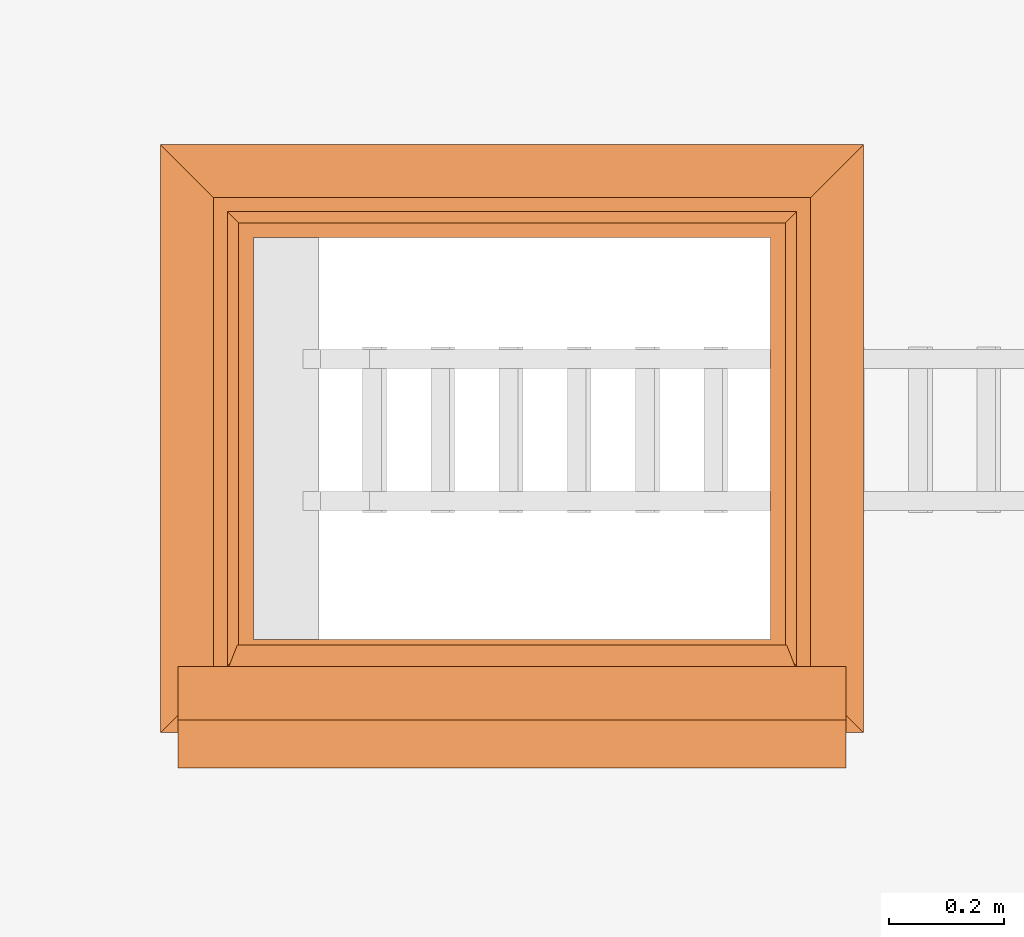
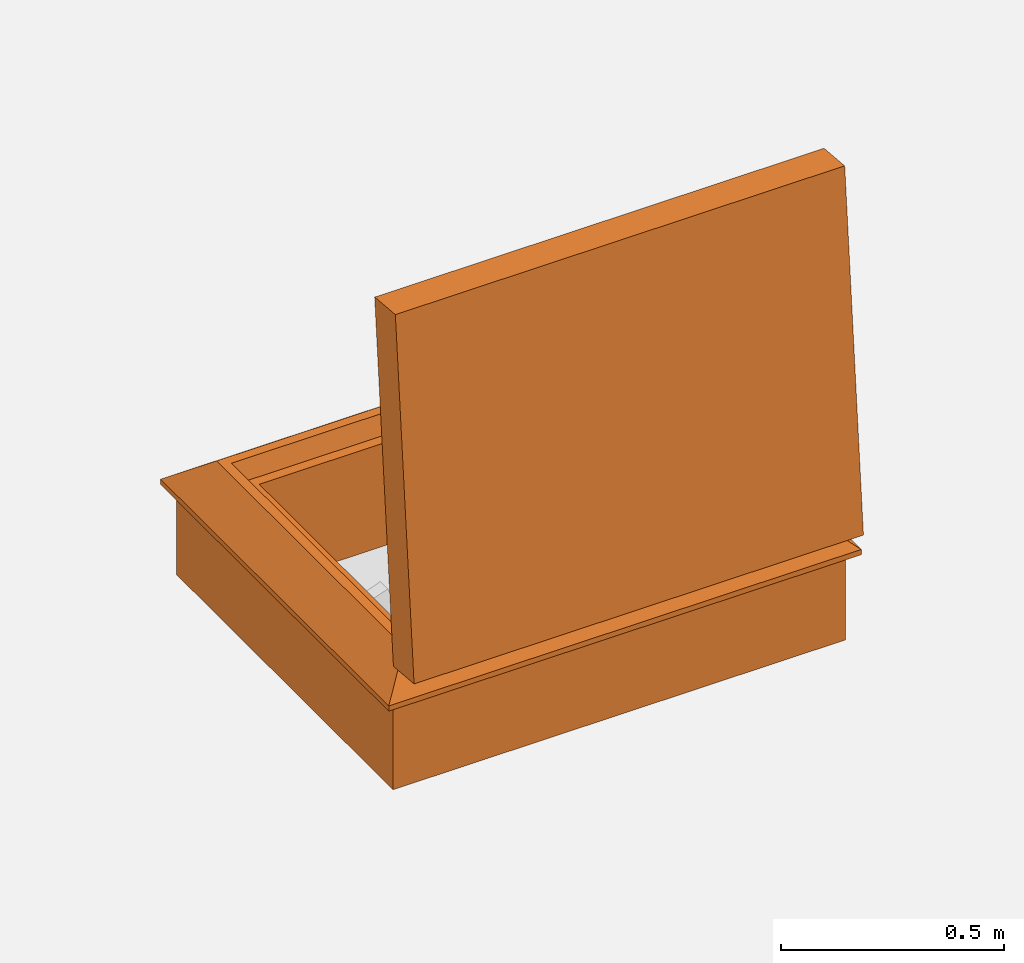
# One storey, part 28 of 28: 1 proxy.
"""IFC2X3 building model written with IfcOpenShell, lengths in millimetres."""

import ifcopenshell
import ifcopenshell.guid

model = None  # the IFC model being written
_history = None  # IfcOwnerHistory: only IFC2X3 demands one
_inside = {}  # id of a spatial element -> (the spatial element, [elements in it])
_under = {}  # id of a project, library or spatial element -> (it, [spatial elements below it])
_declared = {}  # id of a project -> (the project, [libraries it declares])
_typed = {}  # id of a type object -> (the type object, [elements of that type])
_made_of = {}  # id of a material, layer set ... -> (it, [elements and type objects made of it])


def new_model(schema):
    """Start an empty IFC model of exactly this schema.

    Asked for "IFC4X3", IfcOpenShell would pick the latest addendum, in which some entities
    have other attributes; the version numbers below select the first issue.
    IFC2X3 requires an IfcOwnerHistory on every rooted entity: one is made here for all.
    """
    global model, _history
    if schema == "IFC4X3":
        model = ifcopenshell.file(schema_version=(4, 3, 0, 0))
    else:
        model = ifcopenshell.file(schema=schema)
    _inside.clear()
    _under.clear()
    _declared.clear()
    _typed.clear()
    _made_of.clear()
    _history = None
    if model.schema == "IFC2X3":
        org = make("IfcOrganization", Name="unknown")
        user = make(
            "IfcPersonAndOrganization",
            ThePerson=make("IfcPerson", FamilyName="unknown"),
            TheOrganization=org,
        )
        app = make(
            "IfcApplication",
            ApplicationDeveloper=org,
            Version="unknown",
            ApplicationFullName="unknown",
            ApplicationIdentifier="unknown",
        )
        _history = make(
            "IfcOwnerHistory",
            OwningUser=user,
            OwningApplication=app,
            ChangeAction="ADDED",
            CreationDate=0,
        )
    return model


def make(cls, **values):
    """One entity of the class cls with the attributes given. An attribute that is None is left unset."""
    return model.create_entity(
        cls, **{name: value for name, value in values.items() if value is not None}
    )


def entity(cls, *values):
    """Any entity or typed value of the class cls, its attributes in the order of the schema. None: left unset."""
    e = model.create_entity(cls)
    for i, value in enumerate(values):
        if value is not None:
            e[i] = value
    return e


def rooted(cls, **values):
    """An entity with a GlobalId (a new one), such as an element, a storey or a relation."""
    return make(cls, GlobalId=ifcopenshell.guid.new(), OwnerHistory=_history, **values)


def si_unit(unit_type, name, prefix=None):
    """IfcSIUnit, for example si_unit("LENGTHUNIT", "METRE", prefix="MILLI")."""
    return make("IfcSIUnit", UnitType=unit_type, Prefix=prefix, Name=name)


def converted_unit(unit_type, name, factor, base, dimensions=None, offset=None):
    """IfcConversionBasedUnit, such as the inch: factor (a typed value) times the base unit."""
    return make(
        "IfcConversionBasedUnit"
        if offset is None
        else "IfcConversionBasedUnitWithOffset",
        ConversionOffset=offset,
        Dimensions=None
        if dimensions is None
        else entity("IfcDimensionalExponents", *dimensions),
        UnitType=unit_type,
        Name=name,
        ConversionFactor=make(
            "IfcMeasureWithUnit", ValueComponent=factor, UnitComponent=base
        ),
    )


def derived_unit(unit_type, elements):
    """IfcDerivedUnit: a product of units, each with its exponent."""
    return make(
        "IfcDerivedUnit",
        Elements=[
            make("IfcDerivedUnitElement", Unit=unit, Exponent=power)
            for unit, power in elements
        ],
        UnitType=unit_type,
    )


def assignment(units):
    """IfcUnitAssignment: the units of a project."""
    return None if units is None else make("IfcUnitAssignment", Units=units)


def point(xyz):
    """IfcCartesianPoint."""
    return None if xyz is None else make("IfcCartesianPoint", Coordinates=xyz)


def direction(xyz):
    """IfcDirection."""
    return None if xyz is None else make("IfcDirection", DirectionRatios=xyz)


def frame(location, z_axis=None, x_axis=None):
    """IfcAxis2Placement3D, a coordinate frame: its origin and axes. An axis left out is left unset."""
    return make(
        "IfcAxis2Placement3D",
        Location=point(location),
        Axis=direction(z_axis),
        RefDirection=direction(x_axis),
    )


def origin():
    """The frame at (0, 0, 0) with its axes left unset."""
    return frame((0.0, 0.0, 0.0))


def place(relative_to, where):
    """IfcLocalPlacement: puts the frame where relative to a parent placement (None: the world)."""
    return make(
        "IfcLocalPlacement", PlacementRelTo=relative_to, RelativePlacement=where
    )


def context(
    kind, dimensions, precision=None, world=None, true_north=None, identifier=None
):
    """IfcGeometricRepresentationContext, for example the 3D "Model" context."""
    return make(
        "IfcGeometricRepresentationContext",
        ContextIdentifier=identifier,
        ContextType=kind,
        CoordinateSpaceDimension=dimensions,
        Precision=precision,
        WorldCoordinateSystem=world,
        TrueNorth=true_north,
    )


def subcontext(parent, identifier, kind, view, scale=None):
    """IfcGeometricRepresentationSubContext, for example "Body" below "Model"."""
    return make(
        "IfcGeometricRepresentationSubContext",
        ContextIdentifier=identifier,
        ContextType=kind,
        ParentContext=parent,
        TargetScale=scale,
        TargetView=view,
    )


def project(units=None, contexts=None):
    """IfcProject with its units and contexts."""
    return rooted(
        "IfcProject",
        Name="project",
        RepresentationContexts=contexts,
        UnitsInContext=assignment(units),
    )


def spatial(cls, under=None, at=None, **own):
    """A site, building, storey or space (cls), placed at a placement, below another one or the project."""
    s = rooted(cls, ObjectPlacement=at, **own)
    if under is not None:
        _under.setdefault(under.id(), (under, []))[1].append(s)
    return s


def faces_of(points, faces, orient=None, outer=None):
    """IfcFace entities. A face is a list of loops; a loop is a list of indices into points, from 0.

    orient and outer hold one flag for each loop. By default every Orientation is true, the
    first loop of a face is its IfcFaceOuterBound and the others are IfcFaceBound.
    """
    made = []
    for i, loops in enumerate(faces):
        bounds = []
        for j, loop in enumerate(loops):
            is_outer = j == 0 if outer is None else outer[i][j]
            bounds.append(
                make(
                    "IfcFaceOuterBound" if is_outer else "IfcFaceBound",
                    Bound=make("IfcPolyLoop", Polygon=[points[k] for k in loop]),
                    Orientation=True if orient is None else orient[i][j],
                )
            )
        made.append(make("IfcFace", Bounds=bounds))
    return made


def faceted_brep(points, faces, orient=None, outer=None, voids=None):
    """IfcFacetedBrep: a solid bounded by flat faces; with voids (closed shells), ...WithVoids."""
    shared = [point(p) for p in points]
    hull = make("IfcClosedShell", CfsFaces=faces_of(shared, faces, orient, outer))
    if voids is None:
        return make("IfcFacetedBrep", Outer=hull)
    return make(
        "IfcFacetedBrepWithVoids",
        Outer=hull,
        Voids=[
            make(cls, CfsFaces=faces_of(shared, fs, o, b)) for cls, fs, o, b in voids
        ],
    )


def shape(context_of_items, identifier, shape_type, items):
    """IfcShapeRepresentation: the items that make up one representation, for example the "Body"."""
    return make(
        "IfcShapeRepresentation",
        ContextOfItems=context_of_items,
        RepresentationIdentifier=identifier,
        RepresentationType=shape_type,
        Items=items,
    )


def source(mapping_origin, context_of_items, identifier, shape_type, items):
    """IfcRepresentationMap: a shape defined once, which mapped items show again and again."""
    return make(
        "IfcRepresentationMap",
        MappingOrigin=mapping_origin,
        MappedRepresentation=shape(context_of_items, identifier, shape_type, items),
    )


def transform(
    local_origin,
    x_axis=None,
    y_axis=None,
    z_axis=None,
    scale=None,
    scale2=None,
    scale3=None,
    uniform=True,
):
    """IfcCartesianTransformationOperator3D, or its non-uniform kind. x_axis, y_axis, z_axis: its Axis1, 2, 3."""
    if uniform:
        return make(
            "IfcCartesianTransformationOperator3D",
            Axis1=direction(x_axis),
            Axis2=direction(y_axis),
            LocalOrigin=point(local_origin),
            Scale=scale,
            Axis3=direction(z_axis),
        )
    return make(
        "IfcCartesianTransformationOperator3DnonUniform",
        Axis1=direction(x_axis),
        Axis2=direction(y_axis),
        LocalOrigin=point(local_origin),
        Scale=scale,
        Axis3=direction(z_axis),
        Scale2=scale2,
        Scale3=scale3,
    )


def mapped(mapping_source, mapping_target):
    """IfcMappedItem: shows the shape of a source again, moved by a transform."""
    return make(
        "IfcMappedItem", MappingSource=mapping_source, MappingTarget=mapping_target
    )


def made_of(thing, what):
    """Note that an element or type object is made of a material, layer set ...; save() writes the relation."""
    if what is not None:
        _made_of.setdefault(what.id(), (what, []))[1].append(thing)
    return thing


def type_object(cls, material=None, **own):
    """A type object (cls), such as IfcWallType, which elements share."""
    return made_of(rooted(cls, **own), material)


def type_shapes(of_type, sources):
    """Give a type object the sources (RepresentationMaps) that its elements show as mapped items."""
    of_type.RepresentationMaps = sources


def element(
    cls,
    number,
    at=None,
    inside=None,
    cuts=None,
    type_object=None,
    material=None,
    context=None,
    identifier="Body",
    shape_type=None,
    held_by="IfcProductDefinitionShape",
    body=None,
    shapes=None,
    **own,
):
    """One element of the class cls, such as IfcWall. Its Tag is "e" and its number.

    at: its placement. inside: the storey or other place that contains it. cuts: it is an
    opening in that element (IfcRelVoidsElement). A single representation is given by context,
    identifier, shape_type and body (its items); several are given by shapes. held_by: the class
    of the entity that holds the representations. save() writes the other relations.
    """
    e = rooted(cls, Tag="e%d" % number, ObjectPlacement=at, **own)
    if body is not None:
        shapes = [shape(context, identifier, shape_type, body)]
    if shapes is not None:
        e.Representation = make(held_by, Representations=shapes)
    if inside is not None:
        _inside.setdefault(inside.id(), (inside, []))[1].append(e)
    if cuts is not None:
        rooted(
            "IfcRelVoidsElement", RelatingBuildingElement=cuts, RelatedOpeningElement=e
        )
    if type_object is not None:
        _typed.setdefault(type_object.id(), (type_object, []))[1].append(e)
    return made_of(e, material)


def aggregate(whole, parts):
    """IfcRelAggregates: a whole, such as a stair, and the parts it consists of."""
    return rooted("IfcRelAggregates", RelatingObject=whole, RelatedObjects=parts)


def save(model, path):
    """Write the relations noted so far, then the file.

    IfcRelAggregates (storeys below a building ...), IfcRelContainedInSpatialStructure (elements
    in a storey), IfcRelDefinesByType, IfcRelAssociatesMaterial and IfcRelDeclares: one each for
    every whole, place, type object, material and project.
    """
    for whole, parts in _under.values():
        aggregate(whole, parts)
    for where, things in _inside.values():
        rooted(
            "IfcRelContainedInSpatialStructure",
            RelatedElements=things,
            RelatingStructure=where,
        )
    for kind, things in _typed.values():
        rooted("IfcRelDefinesByType", RelatedObjects=things, RelatingType=kind)
    for what, things in _made_of.values():
        rooted("IfcRelAssociatesMaterial", RelatedObjects=things, RelatingMaterial=what)
    for by, libraries in _declared.values():
        rooted("IfcRelDeclares", RelatingContext=by, RelatedDefinitions=libraries)
    model.write(path)


model = new_model("IFC2X3")

# Units and contexts
model_context = context("Model", 3, precision=0.01, world=origin(), true_north=direction((6.12303176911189e-17, 1.0)))
body_context = subcontext(model_context, "Body", "Model", "MODEL_VIEW")
ifc_project = project(units=[si_unit("LENGTHUNIT", "METRE", prefix="MILLI"), si_unit("AREAUNIT", "SQUARE_METRE"), si_unit("VOLUMEUNIT", "CUBIC_METRE"), converted_unit("PLANEANGLEUNIT", "DEGREE", entity("IfcRatioMeasure", 0.0174532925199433), si_unit("PLANEANGLEUNIT", "RADIAN"), dimensions=[0, 0, 0, 0, 0, 0, 0]), si_unit("MASSUNIT", "GRAM", prefix="KILO"), derived_unit("MASSDENSITYUNIT", [(si_unit("MASSUNIT", "GRAM", prefix="KILO"), 1), (si_unit("LENGTHUNIT", "METRE"), -3)]), si_unit("TIMEUNIT", "SECOND"), si_unit("FREQUENCYUNIT", "HERTZ"), si_unit("THERMODYNAMICTEMPERATUREUNIT", "DEGREE_CELSIUS"), derived_unit("THERMALTRANSMITTANCEUNIT", [(si_unit("MASSUNIT", "GRAM", prefix="KILO"), 1), (si_unit("THERMODYNAMICTEMPERATUREUNIT", "KELVIN"), -1), (si_unit("TIMEUNIT", "SECOND"), -3)]), derived_unit("VOLUMETRICFLOWRATEUNIT", [(si_unit("LENGTHUNIT", "METRE"), 3), (si_unit("TIMEUNIT", "SECOND"), -1)]), si_unit("ELECTRICCURRENTUNIT", "AMPERE"), si_unit("ELECTRICVOLTAGEUNIT", "VOLT"), si_unit("POWERUNIT", "WATT"), si_unit("FORCEUNIT", "NEWTON", prefix="KILO"), si_unit("ILLUMINANCEUNIT", "LUX"), si_unit("LUMINOUSFLUXUNIT", "LUMEN"), si_unit("LUMINOUSINTENSITYUNIT", "CANDELA"), derived_unit("USERDEFINED", [(si_unit("MASSUNIT", "GRAM", prefix="KILO"), -1), (si_unit("LENGTHUNIT", "METRE"), -2), (si_unit("TIMEUNIT", "SECOND"), 3), (si_unit("LUMINOUSFLUXUNIT", "LUMEN"), 1)]), derived_unit("LINEARVELOCITYUNIT", [(si_unit("LENGTHUNIT", "METRE"), 1), (si_unit("TIMEUNIT", "SECOND"), -1)]), si_unit("PRESSUREUNIT", "PASCAL"), derived_unit("USERDEFINED", [(si_unit("LENGTHUNIT", "METRE"), -2), (si_unit("MASSUNIT", "GRAM", prefix="KILO"), 1), (si_unit("TIMEUNIT", "SECOND"), -2)])], contexts=[model_context])

# Site, building, storey
site_placement = place(None, origin())
site = spatial("IfcSite", under=ifc_project, at=site_placement, Name="Default", CompositionType="ELEMENT")
building_placement = place(site_placement, origin())
building = spatial("IfcBuilding", under=site, at=building_placement, CompositionType="ELEMENT")
storey_placement = place(building_placement, frame((0.0, 0.0, 4000.0)))
storey = spatial("IfcBuildingStorey", under=building, at=storey_placement, Name="Level 2", CompositionType="ELEMENT", Elevation=4000.0)

# Proxy
building_element_proxy_type = type_object("IfcBuildingElementProxyType", Name="900 x 700 3part Stair", PredefinedType="NOTDEFINED")
shared_shape = source(origin(), body_context, "Body", "Brep", [
    faceted_brep([(-1031.26976233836, -354.358761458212, 273.75531442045), (-1031.26976233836, -365.864908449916, 288.137998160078), (-1031.26976233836, -367.20140657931, 290.920914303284), (-1031.26976233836, -367.181926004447, 294.008060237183), (-1031.26976233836, -349.922619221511, 336.726343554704), (-1031.26976233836, -349.533801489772, 337.426363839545), (-1031.26976233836, -348.986173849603, 338.010582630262), (-1031.26976233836, -348.312728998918, 338.443802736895), (-1031.26976233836, -347.554039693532, 338.699924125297), (-1031.26976233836, -346.75581437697, 338.763516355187), (-1031.26976233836, -345.966143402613, 338.630748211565), (-1031.26976233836, -345.232601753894, 338.309618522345), (-1031.26976233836, -344.599382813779, 337.819474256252), (-1031.26976233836, -344.104635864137, 337.189844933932), (-1031.26976233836, -343.778167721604, 336.458663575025), (-1031.26976233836, -343.639646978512, 335.66998136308), (-1031.26976233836, -343.697419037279, 334.87131371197), (-1031.26976233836, -343.948003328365, 334.110777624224), (-1031.26976233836, -344.376303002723, 333.434192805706), (-1031.26976233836, -344.364435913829, 329.878928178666), (-1031.26976233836, -341.783092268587, 327.434196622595), (-1031.26976233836, -304.474443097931, 313.662769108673), (-997.506920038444, -354.358761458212, 273.75531442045), (-997.506920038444, -365.864908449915, 288.137998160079), (-997.506920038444, -367.20140657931, 290.920914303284), (-997.506920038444, -367.181926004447, 294.008060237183), (-997.506920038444, -349.922619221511, 336.726343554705), (-997.506920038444, -349.533801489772, 337.426363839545), (-997.506920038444, -348.986173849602, 338.010582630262), (-997.506920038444, -347.554039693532, 338.699924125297), (-997.506920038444, -346.75581437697, 338.763516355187), (-997.506920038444, -348.312728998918, 338.443802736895), (-997.506920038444, -345.966143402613, 338.630748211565), (-997.506920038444, -345.232601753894, 338.309618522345), (-997.506920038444, -344.104635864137, 337.189844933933), (-997.506920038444, -344.599382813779, 337.819474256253), (-997.506920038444, -343.778167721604, 336.458663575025), (-997.506920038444, -343.697419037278, 334.87131371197), (-997.506920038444, -343.948003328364, 334.110777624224), (-997.506920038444, -343.639646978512, 335.669981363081), (-997.506920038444, -344.376303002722, 333.434192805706), (-997.506920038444, -344.36443591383, 329.878928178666), (-997.506920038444, -341.783092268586, 327.434196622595), (-997.506920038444, -304.474443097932, 313.662769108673)], [[[0, 1, 2, 3, 4, 5, 6, 7, 8, 9, 10, 11, 12, 13, 14, 15, 16, 17, 18, 19, 20, 21]], [[1, 0, 22, 23]], [[1, 23, 24, 2]], [[24, 25, 3, 2]], [[4, 3, 25, 26]], [[27, 5, 4, 26]], [[28, 6, 5, 27]], [[29, 30, 9, 8]], [[8, 7, 31, 29]], [[31, 7, 6, 28]], [[32, 10, 9, 30]], [[11, 10, 32, 33]], [[34, 13, 12, 35]], [[36, 14, 13, 34]], [[37, 38, 17, 16]], [[16, 15, 39, 37]], [[39, 15, 14, 36]], [[40, 18, 17, 38]], [[12, 11, 33, 35]], [[40, 41, 19, 18]], [[42, 20, 19, 41]], [[21, 20, 42, 43]], [[0, 21, 43, 22]], [[22, 43, 42, 41, 40, 38, 37, 39, 36, 34, 35, 33, 32, 30, 29, 31, 28, 27, 26, 25, 24, 23]]]),
    faceted_brep([(-162.921907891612, -354.358761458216, 273.75531442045), (-162.921907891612, -304.474443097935, 313.662769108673), (-131.269762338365, -304.474443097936, 313.662769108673), (-131.269762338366, -354.358761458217, 273.75531442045), (-162.921907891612, -341.783092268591, 327.434196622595), (-131.269762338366, -341.783092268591, 327.434196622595), (-131.269762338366, -344.376303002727, 333.434192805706), (-131.269762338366, -344.364435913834, 329.878928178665), (-162.921907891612, -344.364435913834, 329.878928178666), (-162.921907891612, -344.376303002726, 333.434192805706), (-131.269762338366, -349.533801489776, 337.426363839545), (-162.921907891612, -349.533801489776, 337.426363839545), (-162.921907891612, -349.922619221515, 336.726343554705), (-131.269762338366, -349.922619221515, 336.726343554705), (-131.269762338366, -348.986173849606, 338.010582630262), (-162.921907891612, -348.986173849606, 338.010582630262), (-162.921907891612, -347.554039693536, 338.699924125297), (-162.921907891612, -348.312728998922, 338.443802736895), (-131.269762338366, -348.312728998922, 338.443802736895), (-131.269762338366, -347.554039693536, 338.699924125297), (-131.269762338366, -346.755814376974, 338.763516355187), (-162.921907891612, -346.755814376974, 338.763516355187), (-131.269762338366, -345.966143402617, 338.630748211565), (-162.921907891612, -345.966143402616, 338.630748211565), (-131.269762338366, -345.232601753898, 338.309618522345), (-162.921907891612, -345.232601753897, 338.309618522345), (-131.269762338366, -344.599382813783, 337.819474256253), (-162.921907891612, -344.599382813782, 337.819474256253), (-131.269762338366, -344.104635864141, 337.189844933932), (-162.921907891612, -344.104635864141, 337.189844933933), (-162.921907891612, -343.639646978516, 335.669981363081), (-162.921907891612, -343.778167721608, 336.458663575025), (-131.269762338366, -343.778167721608, 336.458663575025), (-131.269762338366, -343.639646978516, 335.66998136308), (-131.269762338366, -343.697419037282, 334.87131371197), (-162.921907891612, -343.697419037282, 334.87131371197), (-131.269762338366, -343.948003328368, 334.110777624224), (-162.921907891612, -343.948003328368, 334.110777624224), (-162.921907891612, -367.181926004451, 294.008060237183), (-131.269762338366, -367.181926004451, 294.008060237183), (-162.921907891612, -365.864908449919, 288.137998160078), (-131.269762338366, -365.86490844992, 288.137998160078), (-131.269762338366, -367.201406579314, 290.920914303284), (-162.921907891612, -367.201406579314, 290.920914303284)], [[[0, 1, 2, 3]], [[1, 4, 5, 2]], [[6, 7, 8, 9]], [[5, 4, 8, 7]], [[10, 11, 12, 13]], [[14, 15, 11, 10]], [[16, 17, 18, 19]], [[19, 20, 21, 16]], [[14, 18, 17, 15]], [[22, 23, 21, 20]], [[23, 22, 24, 25]], [[26, 27, 25, 24]], [[28, 29, 27, 26]], [[30, 31, 32, 33]], [[33, 34, 35, 30]], [[28, 32, 31, 29]], [[36, 37, 35, 34]], [[9, 37, 36, 6]], [[12, 38, 39, 13]], [[40, 41, 42, 43]], [[42, 39, 38, 43]], [[40, 0, 3, 41]], [[19, 18, 14, 10, 13, 39, 42, 41, 3, 2, 5, 7, 6, 36, 34, 33, 32, 28, 26, 24, 22, 20]], [[35, 37, 9, 8, 4, 1, 0, 40, 43, 38, 12, 11, 15, 17, 16, 21, 23, 25, 27, 29, 31, 30]]]),
    faceted_brep([(-61.2697623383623, 553.447095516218, 328.0), (30.7302376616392, 645.447095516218, 254.400000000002), (-1193.26976233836, 645.447095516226, 254.400000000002), (-1101.26976233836, 553.447095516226, 328.0), (-105.269762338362, 509.447095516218, 282.0), (-85.7439207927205, 528.97293706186, 328.0), (-1076.795603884, 528.972937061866, 328.0), (-1057.26976233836, 509.447095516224, 282.0), (-131.269762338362, 483.44709551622, 0.0), (-131.269762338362, 483.44709551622, 282.0), (-1031.26976233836, 483.447095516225, 282.0), (-1031.26976233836, 483.447095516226, 0.0), (4.73023766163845, 619.447095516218, 240.0), (4.73023766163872, 619.447095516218, 0.0), (-1167.26976233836, 619.447095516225, 0.0), (-1167.26976233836, 619.447095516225, 240.0), (30.7302376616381, 645.447095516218, 240.0), (-1193.26976233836, 645.447095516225, 240.0), (-1193.26976233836, -378.552904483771, 254.400000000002), (-1101.26976233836, -286.55290448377, 328.0), (-1076.795603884, -262.078746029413, 328.0), (-1057.26976233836, -242.552904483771, 282.0), (-1031.26976233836, -216.552904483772, 282.0), (-1031.26976233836, -216.552904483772, 0.0), (-1167.26976233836, -352.55290448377, 0.0), (-1167.26976233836, -352.55290448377, 240.0), (-1193.26976233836, -378.552904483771, 240.0), (30.7302376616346, -378.552904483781, 254.400000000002), (-61.2697623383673, -286.552904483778, 328.0), (-85.7439207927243, -262.07874602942, 328.0), (-105.269762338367, -242.552904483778, 282.0), (-131.269762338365, -216.552904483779, 282.0), (-131.269762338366, -216.55290448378, 0.0), (4.73023766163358, -352.552904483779, 0.0), (4.73023766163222, -352.552904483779, 240.0), (30.7302376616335, -378.55290448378, 240.0)], [[[0, 1, 2, 3]], [[4, 5, 6, 7]], [[8, 9, 10, 11]], [[12, 13, 14, 15]], [[1, 16, 17, 2]], [[3, 2, 18, 19]], [[7, 6, 20, 21]], [[11, 10, 22, 23]], [[15, 14, 24, 25]], [[2, 17, 26, 18]], [[19, 18, 27, 28]], [[21, 20, 29, 30]], [[23, 22, 31, 32]], [[25, 24, 33, 34]], [[18, 26, 35, 27]], [[28, 27, 1, 0]], [[3, 19, 28, 0], [5, 29, 20, 6]], [[30, 29, 5, 4]], [[7, 21, 30, 4], [9, 31, 22, 10]], [[32, 31, 9, 8]], [[11, 23, 32, 8], [13, 33, 24, 14]], [[34, 33, 13, 12]], [[15, 25, 34, 12], [16, 35, 26, 17]], [[27, 35, 16, 1]]], outer=[[True], [True], [True], [True], [True], [True], [True], [True], [True], [True], [True], [True], [True], [True], [True], [True], [True, False], [True], [True, False], [True], [False, True], [True], [False, True], [True]]),
    faceted_brep([(-1034.26693391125, -367.286388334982, 1173.32805698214), (-1034.26693391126, -428.81834271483, 470.014600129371), (-128.266933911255, -428.81834271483, 470.014600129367), (-128.266933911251, -367.286388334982, 1173.32805698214), (-1034.26693391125, -228.416847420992, 1161.17854644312), (-128.266933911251, -228.416847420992, 1161.17854644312), (-128.266933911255, -289.94880180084, 457.865089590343), (-1034.26693391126, -289.94880180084, 457.865089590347)], [[[0, 1, 2, 3]], [[4, 5, 6, 7]], [[1, 0, 4, 7]], [[2, 1, 7, 6]], [[3, 2, 6, 5]], [[0, 3, 5, 4]]]),
    faceted_brep([(-128.266933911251, -228.416847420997, 1161.17854644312), (-128.266933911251, -367.286388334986, 1173.32805698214), (-1034.26693391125, -367.286388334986, 1173.32805698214), (-1034.26693391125, -228.416847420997, 1161.17854644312), (-85.2669339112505, -270.892584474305, 1208.05894492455), (-102.86693391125, -226.203091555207, 1186.48189177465), (-1059.66693391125, -226.203091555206, 1186.48189177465), (-1077.26693391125, -270.892584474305, 1208.05894492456), (0.733066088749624, -356.043297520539, 1301.83717303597), (0.733066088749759, -263.397190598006, 1293.73168896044), (-1163.26693391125, -263.397190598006, 1293.73168896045), (-1163.26693391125, -356.043297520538, 1301.83717303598), (-1034.26693391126, -428.818342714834, 470.014600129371), (-1034.26693391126, -289.948801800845, 457.865089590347), (-1059.66693391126, -292.162557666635, 432.561744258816), (-1077.26693391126, -339.919932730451, 419.072744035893), (-1163.26693391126, -347.41532660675, 333.400000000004), (-1163.26693391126, -440.061433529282, 341.505484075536), (-128.266933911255, -428.818342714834, 470.014600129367), (-128.266933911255, -289.948801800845, 457.865089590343), (-102.866933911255, -292.162557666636, 432.561744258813), (-85.2669339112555, -339.919932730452, 419.072744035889), (0.733066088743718, -347.41532660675, 333.399999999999), (0.733066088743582, -440.061433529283, 341.505484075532)], [[[0, 1, 2, 3]], [[4, 5, 6, 7]], [[8, 9, 10, 11]], [[3, 2, 12, 13]], [[7, 6, 14, 15]], [[11, 10, 16, 17]], [[13, 12, 18, 19]], [[15, 14, 20, 21]], [[17, 16, 22, 23]], [[19, 18, 1, 0]], [[3, 13, 19, 0], [5, 20, 14, 6]], [[21, 20, 5, 4]], [[7, 15, 21, 4], [9, 22, 16, 10]], [[23, 22, 9, 8]], [[1, 18, 12, 2], [11, 17, 23, 8]]], outer=[[True], [True], [True], [True], [True], [True], [True], [True], [True], [True], [False, True], [True], [False, True], [True], [False, True]]),
])
type_shapes(building_element_proxy_type, [shared_shape])
proxy_placement = place(storey_placement, frame((13947.8893775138, 9240.33582063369, 400.0)))
element("IfcBuildingElementProxy", 1, at=proxy_placement, inside=storey, type_object=building_element_proxy_type, Name="1_Topaccess_dakluik_900x700_Staka:900 x 700 3part Stair", ObjectType="900 x 700 3part Stair", context=body_context, shape_type="MappedRepresentation", body=[
    mapped(shared_shape, transform((0.0, 0.0, 0.0), scale=1.0)),
])

save(model, "model.ifc")
